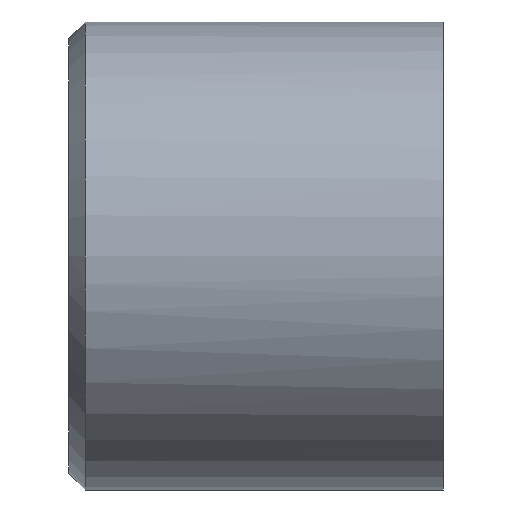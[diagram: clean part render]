
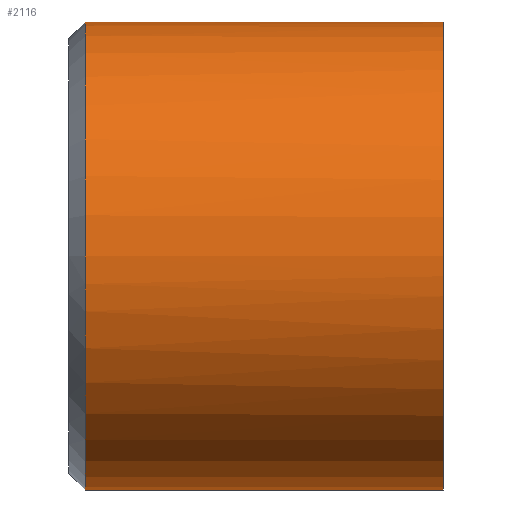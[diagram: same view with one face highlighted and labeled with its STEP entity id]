
A CAD part, front view. The second image highlights one B-rep face of the part: STEP entity #2116.
In plain terms, the highlighted cylindrical face has radius 10 mm (diameter 20 mm), a partial arc.
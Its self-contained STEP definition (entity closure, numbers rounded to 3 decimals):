
#124=CARTESIAN_POINT('Vertex',(0.,0.,-10.)) ;
#130=CARTESIAN_POINT('Control Point',(0.,-10.,0.)) ;
#131=CARTESIAN_POINT('Control Point',(0.,-10.,-0.93)) ;
#132=CARTESIAN_POINT('Control Point',(0.,-9.892,-1.859)) ;
#133=CARTESIAN_POINT('Control Point',(0.,-9.676,-2.772)) ;
#134=CARTESIAN_POINT('Control Point',(0.,-9.036,-4.53)) ;
#135=CARTESIAN_POINT('Control Point',(0.,-8.01,-6.095)) ;
#136=CARTESIAN_POINT('Control Point',(0.,-7.407,-6.815)) ;
#137=CARTESIAN_POINT('Control Point',(0.,-6.047,-8.1)) ;
#138=CARTESIAN_POINT('Control Point',(0.,-4.428,-9.039)) ;
#139=CARTESIAN_POINT('Control Point',(0.,-3.567,-9.412)) ;
#140=CARTESIAN_POINT('Control Point',(0.,-2.331,-9.784)) ;
#141=CARTESIAN_POINT('Control Point',(0.,-1.058,-9.953)) ;
#142=CARTESIAN_POINT('Control Point',(0.,-0.706,-9.984)) ;
#143=CARTESIAN_POINT('Control Point',(0.,-0.353,-10.)) ;
#144=CARTESIAN_POINT('Control Point',(0.,0.,-10.)) ;
#145=CARTESIAN_POINT('Vertex',(0.,-10.,0.)) ;
#149=CARTESIAN_POINT('Control Point',(0.,0.,10.)) ;
#150=CARTESIAN_POINT('Control Point',(0.,-0.576,10.)) ;
#151=CARTESIAN_POINT('Control Point',(0.,-1.153,9.958)) ;
#152=CARTESIAN_POINT('Control Point',(0.,-1.725,9.875)) ;
#153=CARTESIAN_POINT('Control Point',(0.,-3.2,9.551)) ;
#154=CARTESIAN_POINT('Control Point',(0.,-4.594,8.955)) ;
#155=CARTESIAN_POINT('Control Point',(0.,-5.408,8.489)) ;
#156=CARTESIAN_POINT('Control Point',(0.,-6.912,7.375)) ;
#157=CARTESIAN_POINT('Control Point',(0.,-8.121,5.946)) ;
#158=CARTESIAN_POINT('Control Point',(0.,-8.639,5.165)) ;
#159=CARTESIAN_POINT('Control Point',(0.,-9.383,3.696)) ;
#160=CARTESIAN_POINT('Control Point',(0.,-9.813,2.111)) ;
#161=CARTESIAN_POINT('Control Point',(0.,-9.938,1.412)) ;
#162=CARTESIAN_POINT('Control Point',(0.,-10.,0.706)) ;
#163=CARTESIAN_POINT('Control Point',(0.,-10.,0.)) ;
#164=CARTESIAN_POINT('Vertex',(0.,0.,10.)) ;
#2050=CARTESIAN_POINT('Line Origine',(16.,0.,10.)) ;
#2054=CARTESIAN_POINT('Vertex',(15.3,0.,10.)) ;
#2071=CARTESIAN_POINT('Vertex',(15.3,0.,-10.)) ;
#2074=CARTESIAN_POINT('Line Origine',(16.,0.,-10.)) ;
#2088=CARTESIAN_POINT('Axis2P3D Location',(16.,0.,0.)) ;
#2093=CARTESIAN_POINT('Axis2P3D Location',(15.3,0.,0.)) ;
#2097=CARTESIAN_POINT('Vertex',(15.3,-10.,0.)) ;
#2101=CARTESIAN_POINT('Control Point',(15.3,0.,10.)) ;
#2102=CARTESIAN_POINT('Control Point',(15.3,-3.142,10.)) ;
#2103=CARTESIAN_POINT('Control Point',(15.3,-6.286,8.77)) ;
#2104=CARTESIAN_POINT('Control Point',(15.3,-8.77,6.286)) ;
#2105=CARTESIAN_POINT('Control Point',(15.3,-10.,3.142)) ;
#2106=CARTESIAN_POINT('Control Point',(15.3,-10.,0.)) ;
#2051=DIRECTION('Vector Direction',(-1.,0.,0.)) ;
#2075=DIRECTION('Vector Direction',(-1.,0.,0.)) ;
#2089=DIRECTION('Axis2P3D Direction',(-1.,-0.,-0.)) ;
#2090=DIRECTION('Axis2P3D XDirection',(0.,0.,-1.)) ;
#2094=DIRECTION('Axis2P3D Direction',(-1.,-0.,-0.)) ;
#2091=AXIS2_PLACEMENT_3D('Cylinder Axis2P3D',#2088,#2089,#2090) ;
#2095=AXIS2_PLACEMENT_3D('Circle Axis2P3D',#2093,#2094,$) ;
#2109=ORIENTED_EDGE('',*,*,#2078,.T.) ;
#2110=ORIENTED_EDGE('',*,*,#2099,.F.) ;
#2111=ORIENTED_EDGE('',*,*,#2107,.F.) ;
#2112=ORIENTED_EDGE('',*,*,#2056,.T.) ;
#2113=ORIENTED_EDGE('',*,*,#166,.T.) ;
#2114=ORIENTED_EDGE('',*,*,#147,.T.) ;
#2052=VECTOR('Line Direction',#2051,1.) ;
#2076=VECTOR('Line Direction',#2075,1.) ;
#2116=ADVANCED_FACE('D375-20-A-DM-FA',(#2115),#2092,.T.) ;
#129=B_SPLINE_CURVE_WITH_KNOTS('',5,(#130,#131,#132,#133,#134,#135,#136,#137,#138,#139,#140,#141,#142,#143,#144),.UNSPECIFIED.,.F.,.U.,(6,3,3,3,6),(0.,6.573,13.145,19.718,22.214),.UNSPECIFIED.) ;
#148=B_SPLINE_CURVE_WITH_KNOTS('',5,(#149,#150,#151,#152,#153,#154,#155,#156,#157,#158,#159,#160,#161,#162,#163),.UNSPECIFIED.,.F.,.U.,(6,3,3,3,6),(22.214,26.29,32.863,39.436,44.428),.UNSPECIFIED.) ;
#2100=B_SPLINE_CURVE_WITH_KNOTS('',5,(#2101,#2102,#2103,#2104,#2105,#2106),.UNSPECIFIED.,.F.,.U.,(6,6),(-7.854,7.854),.UNSPECIFIED.) ;
#2096=CIRCLE('generated circle',#2095,10.) ;
#2092=CYLINDRICAL_SURFACE('generated cylinder',#2091,10.) ;
#147=EDGE_CURVE('',#146,#125,#129,.T.) ;
#166=EDGE_CURVE('',#165,#146,#148,.T.) ;
#2056=EDGE_CURVE('',#2055,#165,#2053,.T.) ;
#2078=EDGE_CURVE('',#125,#2072,#2077,.F.) ;
#2099=EDGE_CURVE('',#2098,#2072,#2096,.F.) ;
#2107=EDGE_CURVE('',#2055,#2098,#2100,.T.) ;
#2108=EDGE_LOOP('',(#2109,#2110,#2111,#2112,#2113,#2114)) ;
#2115=FACE_OUTER_BOUND('',#2108,.T.) ;
#2053=LINE('Line',#2050,#2052) ;
#2077=LINE('Line',#2074,#2076) ;
#125=VERTEX_POINT('',#124) ;
#146=VERTEX_POINT('',#145) ;
#165=VERTEX_POINT('',#164) ;
#2055=VERTEX_POINT('',#2054) ;
#2072=VERTEX_POINT('',#2071) ;
#2098=VERTEX_POINT('',#2097) ;
